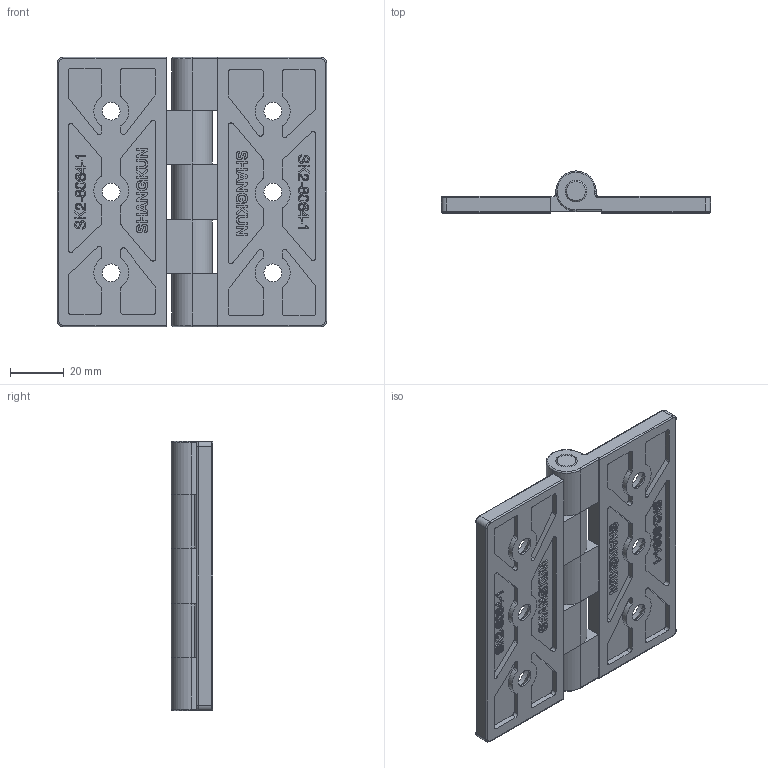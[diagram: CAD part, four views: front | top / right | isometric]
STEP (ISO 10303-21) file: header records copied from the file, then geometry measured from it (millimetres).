
FILE_DESCRIPTION (( 'STEP AP214' ), '1' );
FILE_NAME ('SK2-8064-1.STEP', '2020-03-24T02:01:29', ( 'admin' ), ( 'Microsoft' ), 'SwSTEP 2.0', 'SolidWorks 2018', '' );
FILE_SCHEMA (( 'AUTOMOTIVE_DESIGN' ));
Length unit declared in the file: millimetre
Products named in the file (4): 2-8064-1-F3; 2-8064-1-F2; 2-8064-1-F1; SK2-8064-1
Assembly tree (3 placements, depth 2):
  SK2-8064-1
    2-8064-1-F1
    2-8064-1-F2
    2-8064-1-F3
Bounding box: 100 x 15.5 x 100 mm (x, y, z)
Volume: 58132.7 mm3; surface area: 33021.5 mm2
Topology: 3 solids, 3 shells, 769 faces, 2069 edges, 1366 vertices
Faces by surface type: plane 396, bspline 180, cylinder 165, cone 16, torus 12
Entity records: 34499 total; most frequent: CARTESIAN_POINT 15910, ORIENTED_EDGE 4138, DIRECTION 3257, EDGE_CURVE 2069, VERTEX_POINT 1366, LINE 1351, VECTOR 1351, AXIS2_PLACEMENT_3D 953
